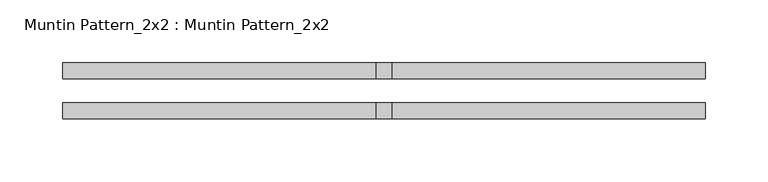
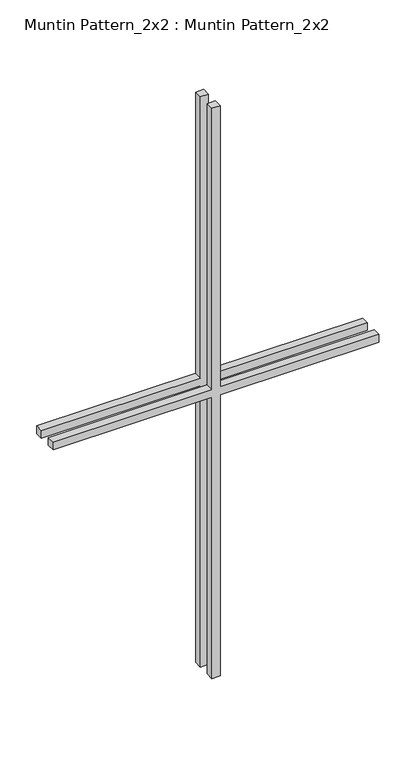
"""IFC4 building model written with IfcOpenShell, lengths in millimetres: proxy geometry, Muntin Pattern_2x2 : Muntin Pattern_2x2."""

from ifc_helpers import new_model, si_unit, frame, origin, place, context, project, spatial, polyline, outline, extrude, source, transform, mapped, element, save


def muntin_pattern_2x2_muntin_pattern_2x2_46a83522(model_context):
    return source(origin(), model_context, "Body", "SweptSolid", [
        extrude(outline(polyline([(479.425, -6.35), (479.425, -255.5875), (466.725, -255.5875), (466.725, -6.35), (0.0, -6.35), (0.0, 6.35), (466.725, 6.35), (466.725, 255.5875), (479.425, 255.5875), (479.425, 6.35), (946.15, 6.35), (946.15, -6.35), (479.425, -6.35)])), frame((0.0, 9.525, 0.0), z_axis=(0.0, 1.0, 0.0), x_axis=(0.0, 0.0, 1.0)), (0.0, 0.0, 1.0), 12.7),
        extrude(outline(polyline([(479.425, -6.35), (479.425, -255.5875), (466.725, -255.5875), (466.725, -6.35), (0.0, -6.35), (0.0, 6.35), (466.725, 6.35), (466.725, 255.5875), (479.425, 255.5875), (479.425, 6.35), (946.15, 6.35), (946.15, -6.35), (479.425, -6.35)])), frame((0.0, -22.225, 0.0), z_axis=(0.0, 1.0, 0.0), x_axis=(0.0, 0.0, 1.0)), (0.0, 0.0, 1.0), 12.7),
    ])


if __name__ == "__main__":
    model = new_model("IFC4")
    model_context = context("Model", 3, world=origin())
    ifc_project = project(units=[si_unit("LENGTHUNIT", "METRE", prefix="MILLI")], contexts=[model_context])
    site = spatial("IfcSite", under=ifc_project)
    building = spatial("IfcBuilding", under=site)
    placement = place(None, origin())
    muntin_pattern_2x2_muntin_pattern_2x2_shape = muntin_pattern_2x2_muntin_pattern_2x2_46a83522(model_context)
    element("IfcBuildingElementProxy", 1, Name="Muntin Pattern_2x2 : Muntin Pattern_2x2", ObjectType="Muntin Pattern_2x2 : Muntin Pattern_2x2", at=placement, inside=building, context=model_context, shape_type="MappedRepresentation", body=[
        mapped(muntin_pattern_2x2_muntin_pattern_2x2_shape, transform((0.0, 0.0, 0.0), x_axis=(1.0, 0.0, 0.0), y_axis=(0.0, 1.0, 0.0), z_axis=(0.0, 0.0, 1.0))),
    ])
    save(model, "model.ifc")
